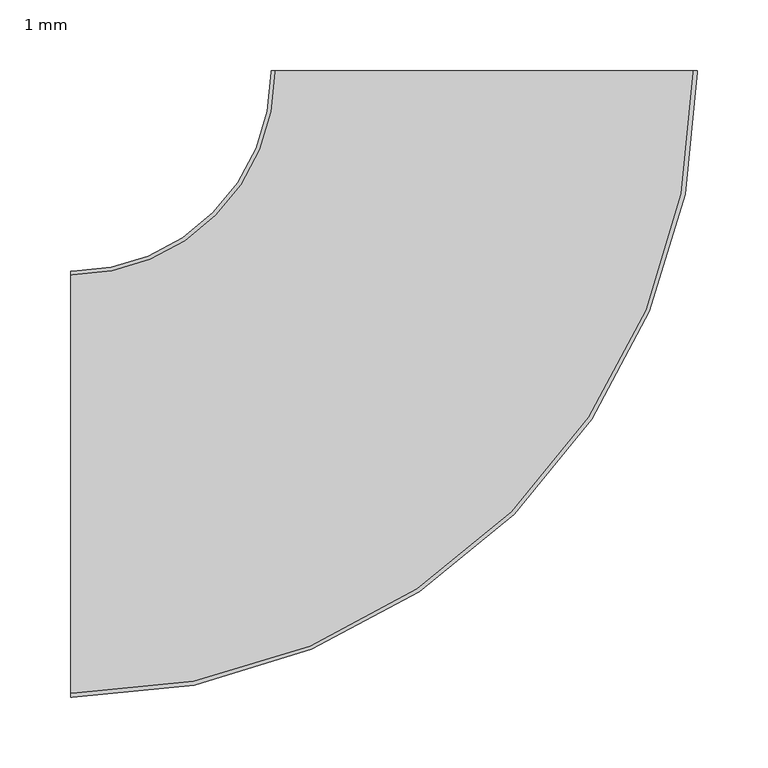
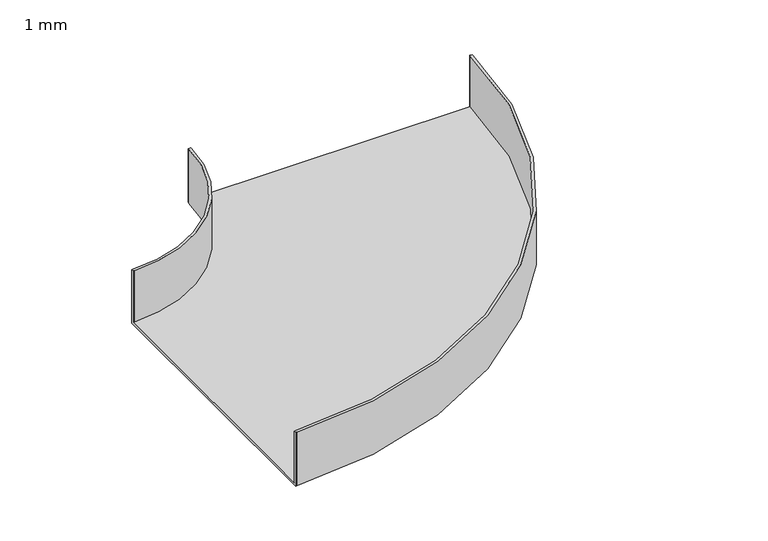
"""IFC4 building model written with IfcOpenShell, lengths in millimetres: cable carrier fitting geometry, BAKS_Kolano_koryta (R140) : 1 mm."""

from ifc_helpers import new_model, si_unit, frame, origin, place, context, project, spatial, polyline, circle_curve, source, transform, mapped, element, save
from ifc_brep_helpers import plane_surface, cylinder_surface, revolved_surface, advanced_brep


def cable_carrier_fitting_1_mm_9a7406c8(model_context):
    return source(origin(), model_context, "Body", "AdvancedBrep", [
        advanced_brep(
        [(-291.0, -150.0, -30.0), (-291.0, -150.0, 30.0), (-291.0, -147.46, 30.0), (-291.0, -147.46, -27.46), (-291.0, 147.46, -27.46), (-291.0, 147.46, 30.0), (-291.0, 150.0, 30.0), (-291.0, 150.0, -30.0), (150.0, 291.0, -30.0), (-150.0, 291.0, -30.0), (-150.0, 291.0, 30.0), (-147.46, 291.0, 30.0), (-147.46, 291.0, -27.46), (147.46, 291.0, -27.46), (147.46, 291.0, 30.0), (150.0, 291.0, 30.0), (-290.0, -150.0, -30.0), (-290.0, -150.0, 30.0), (150.0, 290.0, 30.0), (147.46, 290.0, 30.0), (-290.0, -147.46, 30.0), (-290.0, -147.46, -27.46), (147.46, 290.0, -27.46), (-147.46, 290.0, -27.46), (-290.0, 147.46, -27.46), (-290.0, 147.46, 30.0), (-147.46, 290.0, 30.0), (-150.0, 290.0, 30.0), (-290.0, 150.0, 30.0), (-290.0, 150.0, -30.0), (-150.0, 290.0, -30.0), (150.0, 290.0, -30.0)],
        [
            (0, 1),
            (1, 2),
            (2, 3),
            (3, 4),
            (4, 5),
            (5, 6),
            (6, 7),
            (7, 0),
            (8, 9),
            (9, 10),
            (10, 11),
            (11, 12),
            (12, 13),
            (13, 14),
            (14, 15),
            (15, 8),
            (0, 16),
            (16, 17),
            (17, 1),
            (17, 18, circle_curve(frame((-290.0, 290.0, 30.0), z_axis=(0.0, 0.0, 1.0), x_axis=(0.0, -1.0, 0.0)), 440.0)),
            (18, 15),
            (14, 19),
            (19, 20, circle_curve(frame((-290.0, 290.0, 30.0), z_axis=(0.0, 0.0, -1.0), x_axis=(0.0, -1.0, 0.0)), 437.46)),
            (20, 2),
            (20, 21),
            (21, 3),
            (21, 22, circle_curve(frame((-290.0, 290.0, -27.46), z_axis=(0.0, 0.0, 1.0), x_axis=(0.0, -1.0, 0.0)), 437.46)),
            (22, 13),
            (12, 23),
            (23, 24, circle_curve(frame((-290.0, 290.0, -27.46), z_axis=(0.0, 0.0, -1.0), x_axis=(0.0, -1.0, 0.0)), 142.54)),
            (24, 4),
            (24, 25),
            (25, 5),
            (25, 26, circle_curve(frame((-290.0, 290.0, 30.0), z_axis=(0.0, 0.0, 1.0), x_axis=(0.0, -1.0, 0.0)), 142.54)),
            (26, 11),
            (10, 27),
            (27, 28, circle_curve(frame((-290.0, 290.0, 30.0), z_axis=(0.0, 0.0, -1.0), x_axis=(0.0, -1.0, 0.0)), 140.0)),
            (28, 6),
            (28, 29),
            (29, 7),
            (29, 30, circle_curve(frame((-290.0, 290.0, -30.0), z_axis=(0.0, 0.0, 1.0), x_axis=(0.0, -1.0, 0.0)), 140.0)),
            (30, 9),
            (8, 31),
            (31, 16, circle_curve(frame((-290.0, 290.0, -30.0), z_axis=(0.0, 0.0, -1.0), x_axis=(0.0, -1.0, 0.0)), 440.0)),
            (31, 18),
            (19, 22),
            (23, 26),
            (27, 30),
        ],
        [
            plane_surface(frame((-291.0, 0.0, 0.0), z_axis=(-1.0, -4.923661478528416e-12, 0.0), x_axis=(0.0, 0.0, 1.0))),
            plane_surface(frame((0.0, 291.0, 0.0), z_axis=(0.0, 1.0, 0.0), x_axis=(0.0, 0.0, 1.0))),
            plane_surface(frame((-291.0, -150.0, -30.0), z_axis=(4.9405812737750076e-12, -1.0, 0.0), x_axis=(1.0, 4.9405812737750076e-12, 0.0))),
            plane_surface(frame((-291.0, -150.0, 30.0), z_axis=(0.0, 0.0, 1.0), x_axis=(1.0, 4.9405812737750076e-12, 0.0))),
            plane_surface(frame((-291.0, -147.46, 30.0), z_axis=(-4.906741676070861e-12, 1.0, 0.0), x_axis=(1.0, 4.906741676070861e-12, 0.0))),
            plane_surface(frame((-291.0, -147.46, -27.46), z_axis=(0.0, 0.0, 1.0), x_axis=(1.0, 4.906741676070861e-12, 0.0))),
            plane_surface(frame((-291.0, 147.46, -27.46), z_axis=(4.923661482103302e-12, -1.0, 0.0), x_axis=(1.0, 4.923661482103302e-12, 0.0))),
            plane_surface(frame((-291.0, 147.46, 30.0), z_axis=(0.0, 0.0, 1.0), x_axis=(1.0, 4.923661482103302e-12, 0.0))),
            plane_surface(frame((-291.0, 150.0, 30.0), z_axis=(-4.9236614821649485e-12, 1.0, 0.0), x_axis=(1.0, 4.9236614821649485e-12, 0.0))),
            plane_surface(frame((-291.0, 150.0, -30.0), z_axis=(0.0, 0.0, -1.0), x_axis=(1.0, 4.9236614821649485e-12, 0.0))),
            cylinder_surface(frame((-290.0, 290.0, 0.0), z_axis=(0.0, 0.0, 1.0), x_axis=(0.0, -1.0, 0.0)), 440.0),
            revolved_surface(polyline([(-290.0, -147.45999999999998, 30.0), (-290.0, -147.45999999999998, -27.46)]), (-290.0, 290.0, 0.0), (0.0, 0.0, 1.0)),
            cylinder_surface(frame((-290.0, 290.0, 0.0), z_axis=(0.0, 0.0, 1.0), x_axis=(0.0, -1.0, 0.0)), 142.54),
            revolved_surface(polyline([(-290.0, 150.0, 30.0), (-290.0, 150.0, -30.0)]), (-290.0, 290.0, 0.0), (0.0, 0.0, 1.0)),
            plane_surface(frame((150.0, 290.0, -30.0), z_axis=(1.0, 0.0, 0.0), x_axis=(0.0, 1.0, 0.0))),
            plane_surface(frame((147.46, 290.0, 30.0), z_axis=(-1.0, 0.0, 0.0), x_axis=(0.0, 1.0, 0.0))),
            plane_surface(frame((-147.46, 290.0, -27.46), z_axis=(1.0, 0.0, 0.0), x_axis=(0.0, 1.0, 0.0))),
            plane_surface(frame((-150.0, 290.0, 30.0), z_axis=(-1.0, 0.0, 0.0), x_axis=(0.0, 1.0, 0.0))),
        ],
        [
            (0, [[1, 2, 3, 4, 5, 6, 7, 8]]),
            (1, [[9, 10, 11, 12, 13, 14, 15, 16]]),
            (2, [[-1, 17, 18, 19]]),
            (3, [[-2, -19, 20, 21, -15, 22, 23, 24]]),
            (4, [[-3, -24, 25, 26]]),
            (5, [[-4, -26, 27, 28, -13, 29, 30, 31]]),
            (6, [[-5, -31, 32, 33]]),
            (7, [[-6, -33, 34, 35, -11, 36, 37, 38]]),
            (8, [[-7, -38, 39, 40]]),
            (9, [[-8, -40, 41, 42, -9, 43, 44, -17]]),
            (10, [[-20, -18, -44, 45]]),
            (11, [[-27, -25, -23, 46]]),
            (12, [[-34, -32, -30, 47]]),
            (13, [[-41, -39, -37, 48]]),
            (14, [[-45, -43, -16, -21]]),
            (15, [[-46, -22, -14, -28]]),
            (16, [[-47, -29, -12, -35]]),
            (17, [[-48, -36, -10, -42]]),
        ],
    ),
    ])


if __name__ == "__main__":
    model = new_model("IFC4")
    model_context = context("Model", 3, world=origin())
    ifc_project = project(units=[si_unit("LENGTHUNIT", "METRE", prefix="MILLI")], contexts=[model_context])
    site = spatial("IfcSite", under=ifc_project)
    building = spatial("IfcBuilding", under=site)
    placement = place(None, origin())
    cable_carrier_fitting_1_mm_shape = cable_carrier_fitting_1_mm_9a7406c8(model_context)
    element("IfcCableCarrierFitting", 1, ObjectType="BAKS_Kolano_koryta (R140) : 1 mm", at=placement, inside=building, context=model_context, shape_type="MappedRepresentation", body=[
        mapped(cable_carrier_fitting_1_mm_shape, transform((0.0, 0.0, 0.0), x_axis=(1.0, 0.0, 0.0), y_axis=(0.0, 1.0, 0.0), z_axis=(0.0, 0.0, 1.0))),
    ])
    save(model, "model.ifc")
